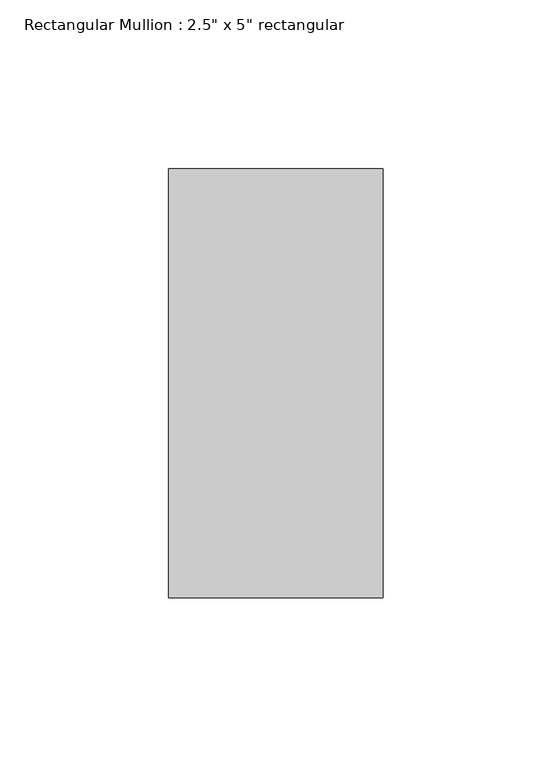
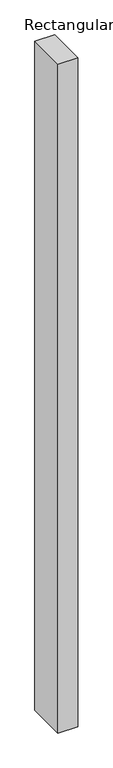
"""IFC4 building model written with IfcOpenShell, lengths in millimetres: member geometry."""

import ifcopenshell
import ifcopenshell.guid

model = None  # the IFC model being written
_history = None  # IfcOwnerHistory: only IFC2X3 demands one
_inside = {}  # id of a spatial element -> (the spatial element, [elements in it])
_under = {}  # id of a project, library or spatial element -> (it, [spatial elements below it])
_declared = {}  # id of a project -> (the project, [libraries it declares])
_typed = {}  # id of a type object -> (the type object, [elements of that type])
_made_of = {}  # id of a material, layer set ... -> (it, [elements and type objects made of it])


def new_model(schema):
    """Start an empty IFC model of exactly this schema.

    Asked for "IFC4X3", IfcOpenShell would pick the latest addendum, in which some entities
    have other attributes; the version numbers below select the first issue.
    IFC2X3 requires an IfcOwnerHistory on every rooted entity: one is made here for all.
    """
    global model, _history
    if schema == "IFC4X3":
        model = ifcopenshell.file(schema_version=(4, 3, 0, 0))
    else:
        model = ifcopenshell.file(schema=schema)
    _inside.clear()
    _under.clear()
    _declared.clear()
    _typed.clear()
    _made_of.clear()
    _history = None
    if model.schema == "IFC2X3":
        org = make("IfcOrganization", Name="unknown")
        user = make(
            "IfcPersonAndOrganization",
            ThePerson=make("IfcPerson", FamilyName="unknown"),
            TheOrganization=org,
        )
        app = make(
            "IfcApplication",
            ApplicationDeveloper=org,
            Version="unknown",
            ApplicationFullName="unknown",
            ApplicationIdentifier="unknown",
        )
        _history = make(
            "IfcOwnerHistory",
            OwningUser=user,
            OwningApplication=app,
            ChangeAction="ADDED",
            CreationDate=0,
        )
    return model


def make(cls, **values):
    """One entity of the class cls with the attributes given. An attribute that is None is left unset."""
    return model.create_entity(
        cls, **{name: value for name, value in values.items() if value is not None}
    )


def rooted(cls, **values):
    """An entity with a GlobalId (a new one), such as an element, a storey or a relation."""
    return make(cls, GlobalId=ifcopenshell.guid.new(), OwnerHistory=_history, **values)


def si_unit(unit_type, name, prefix=None):
    """IfcSIUnit, for example si_unit("LENGTHUNIT", "METRE", prefix="MILLI")."""
    return make("IfcSIUnit", UnitType=unit_type, Prefix=prefix, Name=name)


def assignment(units):
    """IfcUnitAssignment: the units of a project."""
    return None if units is None else make("IfcUnitAssignment", Units=units)


def point(xyz):
    """IfcCartesianPoint."""
    return None if xyz is None else make("IfcCartesianPoint", Coordinates=xyz)


def direction(xyz):
    """IfcDirection."""
    return None if xyz is None else make("IfcDirection", DirectionRatios=xyz)


def frame(location, z_axis=None, x_axis=None):
    """IfcAxis2Placement3D, a coordinate frame: its origin and axes. An axis left out is left unset."""
    return make(
        "IfcAxis2Placement3D",
        Location=point(location),
        Axis=direction(z_axis),
        RefDirection=direction(x_axis),
    )


def origin():
    """The frame at (0, 0, 0) with its axes left unset."""
    return frame((0.0, 0.0, 0.0))


def place(relative_to, where):
    """IfcLocalPlacement: puts the frame where relative to a parent placement (None: the world)."""
    return make(
        "IfcLocalPlacement", PlacementRelTo=relative_to, RelativePlacement=where
    )


def context(
    kind, dimensions, precision=None, world=None, true_north=None, identifier=None
):
    """IfcGeometricRepresentationContext, for example the 3D "Model" context."""
    return make(
        "IfcGeometricRepresentationContext",
        ContextIdentifier=identifier,
        ContextType=kind,
        CoordinateSpaceDimension=dimensions,
        Precision=precision,
        WorldCoordinateSystem=world,
        TrueNorth=true_north,
    )


def project(units=None, contexts=None):
    """IfcProject with its units and contexts."""
    return rooted(
        "IfcProject",
        Name="project",
        RepresentationContexts=contexts,
        UnitsInContext=assignment(units),
    )


def spatial(cls, under=None, at=None, **own):
    """A site, building, storey or space (cls), placed at a placement, below another one or the project."""
    s = rooted(cls, ObjectPlacement=at, **own)
    if under is not None:
        _under.setdefault(under.id(), (under, []))[1].append(s)
    return s


def polyline(points):
    """IfcPolyline through the points."""
    return make("IfcPolyline", Points=[point(p) for p in points])


def outline(outer, holes=None, kind="AREA"):
    """IfcArbitraryClosedProfileDef: a profile drawn as a closed curve; with holes, ...WithVoids."""
    if holes is None:
        return make("IfcArbitraryClosedProfileDef", ProfileType=kind, OuterCurve=outer)
    return make(
        "IfcArbitraryProfileDefWithVoids",
        ProfileType=kind,
        OuterCurve=outer,
        InnerCurves=holes,
    )


def extrude(swept, where, along, depth):
    """IfcExtrudedAreaSolid: the profile swept, set in the frame where, extruded along a direction by depth."""
    return make(
        "IfcExtrudedAreaSolid",
        SweptArea=swept,
        Position=where,
        ExtrudedDirection=direction(along),
        Depth=depth,
    )


def shape(context_of_items, identifier, shape_type, items):
    """IfcShapeRepresentation: the items that make up one representation, for example the "Body"."""
    return make(
        "IfcShapeRepresentation",
        ContextOfItems=context_of_items,
        RepresentationIdentifier=identifier,
        RepresentationType=shape_type,
        Items=items,
    )


def source(mapping_origin, context_of_items, identifier, shape_type, items):
    """IfcRepresentationMap: a shape defined once, which mapped items show again and again."""
    return make(
        "IfcRepresentationMap",
        MappingOrigin=mapping_origin,
        MappedRepresentation=shape(context_of_items, identifier, shape_type, items),
    )


def transform(
    local_origin,
    x_axis=None,
    y_axis=None,
    z_axis=None,
    scale=None,
    scale2=None,
    scale3=None,
    uniform=True,
):
    """IfcCartesianTransformationOperator3D, or its non-uniform kind. x_axis, y_axis, z_axis: its Axis1, 2, 3."""
    if uniform:
        return make(
            "IfcCartesianTransformationOperator3D",
            Axis1=direction(x_axis),
            Axis2=direction(y_axis),
            LocalOrigin=point(local_origin),
            Scale=scale,
            Axis3=direction(z_axis),
        )
    return make(
        "IfcCartesianTransformationOperator3DnonUniform",
        Axis1=direction(x_axis),
        Axis2=direction(y_axis),
        LocalOrigin=point(local_origin),
        Scale=scale,
        Axis3=direction(z_axis),
        Scale2=scale2,
        Scale3=scale3,
    )


def mapped(mapping_source, mapping_target):
    """IfcMappedItem: shows the shape of a source again, moved by a transform."""
    return make(
        "IfcMappedItem", MappingSource=mapping_source, MappingTarget=mapping_target
    )


def made_of(thing, what):
    """Note that an element or type object is made of a material, layer set ...; save() writes the relation."""
    if what is not None:
        _made_of.setdefault(what.id(), (what, []))[1].append(thing)
    return thing


def element(
    cls,
    number,
    at=None,
    inside=None,
    cuts=None,
    type_object=None,
    material=None,
    context=None,
    identifier="Body",
    shape_type=None,
    held_by="IfcProductDefinitionShape",
    body=None,
    shapes=None,
    **own,
):
    """One element of the class cls, such as IfcWall. Its Tag is "e" and its number.

    at: its placement. inside: the storey or other place that contains it. cuts: it is an
    opening in that element (IfcRelVoidsElement). A single representation is given by context,
    identifier, shape_type and body (its items); several are given by shapes. held_by: the class
    of the entity that holds the representations. save() writes the other relations.
    """
    e = rooted(cls, Tag="e%d" % number, ObjectPlacement=at, **own)
    if body is not None:
        shapes = [shape(context, identifier, shape_type, body)]
    if shapes is not None:
        e.Representation = make(held_by, Representations=shapes)
    if inside is not None:
        _inside.setdefault(inside.id(), (inside, []))[1].append(e)
    if cuts is not None:
        rooted(
            "IfcRelVoidsElement", RelatingBuildingElement=cuts, RelatedOpeningElement=e
        )
    if type_object is not None:
        _typed.setdefault(type_object.id(), (type_object, []))[1].append(e)
    return made_of(e, material)


def aggregate(whole, parts):
    """IfcRelAggregates: a whole, such as a stair, and the parts it consists of."""
    return rooted("IfcRelAggregates", RelatingObject=whole, RelatedObjects=parts)


def save(model, path):
    """Write the relations noted so far, then the file.

    IfcRelAggregates (storeys below a building ...), IfcRelContainedInSpatialStructure (elements
    in a storey), IfcRelDefinesByType, IfcRelAssociatesMaterial and IfcRelDeclares: one each for
    every whole, place, type object, material and project.
    """
    for whole, parts in _under.values():
        aggregate(whole, parts)
    for where, things in _inside.values():
        rooted(
            "IfcRelContainedInSpatialStructure",
            RelatedElements=things,
            RelatingStructure=where,
        )
    for kind, things in _typed.values():
        rooted("IfcRelDefinesByType", RelatedObjects=things, RelatingType=kind)
    for what, things in _made_of.values():
        rooted("IfcRelAssociatesMaterial", RelatedObjects=things, RelatingMaterial=what)
    for by, libraries in _declared.values():
        rooted("IfcRelDeclares", RelatingContext=by, RelatedDefinitions=libraries)
    model.write(path)


def member_ab42116b(model_context):
    return source(origin(), model_context, "Body", "SweptSolid", [
        extrude(outline(polyline([(31.75, 63.5), (31.75, -63.5), (-31.75, -63.5), (-31.75, 63.5), (31.75, 63.5)])), frame((0.0, 0.0, -2261.6), z_axis=(0.0, 0.0, 1.0), x_axis=(1.0, 0.0, 0.0)), (0.0, 0.0, 1.0), 2261.6),
    ])


if __name__ == "__main__":
    model = new_model("IFC4")
    model_context = context("Model", 3, world=origin())
    ifc_project = project(units=[si_unit("LENGTHUNIT", "METRE", prefix="MILLI")], contexts=[model_context])
    site = spatial("IfcSite", under=ifc_project)
    building = spatial("IfcBuilding", under=site)
    placement = place(None, origin())
    member_shape = member_ab42116b(model_context)
    element("IfcMember", 1, ObjectType="Rectangular Mullion : 2.5\" x 5\" rectangular", at=placement, inside=building, context=model_context, shape_type="MappedRepresentation", body=[
        mapped(member_shape, transform((0.0, 0.0, 0.0), x_axis=(1.0, 0.0, 0.0), y_axis=(0.0, 1.0, 0.0), z_axis=(0.0, 0.0, 1.0))),
    ])
    save(model, "model.ifc")
